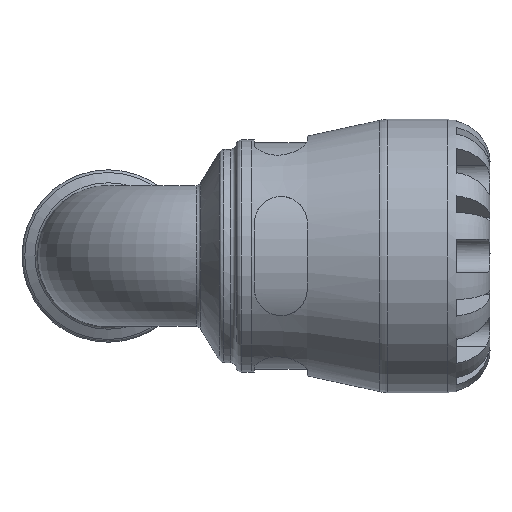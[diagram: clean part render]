
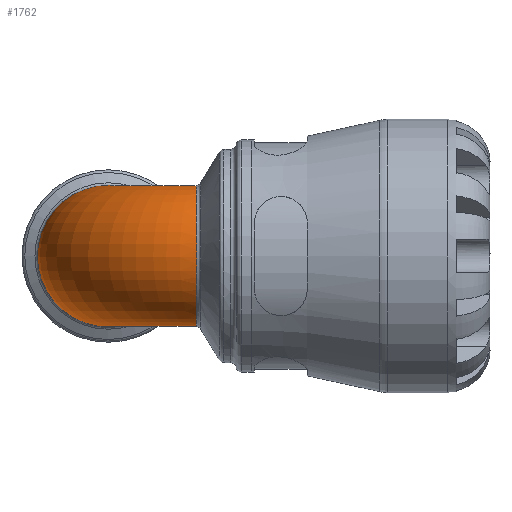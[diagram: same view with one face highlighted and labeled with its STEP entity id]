
A CAD part, front view. The second image highlights one B-rep face of the part: STEP entity #1762.
In plain terms, the highlighted toroidal (fillet/blend) face has major radius 23.875 mm and minor radius 14.962 mm.
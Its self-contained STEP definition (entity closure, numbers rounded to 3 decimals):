
#236=B_SPLINE_CURVE_WITH_KNOTS('',3,(#2670,#2671,#2672,#2673,#2674,#2675,
#2676,#2677,#2678,#2679,#2680,#2681,#2682,#2683,#2684,#2685,#2686),
 .UNSPECIFIED.,.T.,.F.,(4,1,1,1,1,1,1,1,1,1,1,1,1,1,4),(-3.142,
-2.693,-2.244,-1.795,-1.346,
-1.047,-0.449,-0.15,0.449,
0.898,1.346,1.795,2.244,2.693,
3.142),.UNSPECIFIED.);
#357=FACE_BOUND('',#512,.T.);
#389=FACE_OUTER_BOUND('',#511,.T.);
#511=EDGE_LOOP('',(#1167));
#512=EDGE_LOOP('',(#1168));
#634=CIRCLE('',#1873,14.962);
#731=VERTEX_POINT('',#2580);
#733=VERTEX_POINT('',#2668);
#894=EDGE_CURVE('',#731,#731,#634,.T.);
#896=EDGE_CURVE('',#733,#733,#236,.T.);
#1167=ORIENTED_EDGE('',*,*,#896,.F.);
#1168=ORIENTED_EDGE('',*,*,#894,.T.);
#1632=TOROIDAL_SURFACE('',#1887,23.875,14.962);
#1762=ADVANCED_FACE('',(#389,#357),#1632,.T.);
#1873=AXIS2_PLACEMENT_3D('',#2581,#2091,#2092);
#1887=AXIS2_PLACEMENT_3D('',#2923,#2120,#2121);
#2091=DIRECTION('center_axis',(0.,-1.,0.));
#2092=DIRECTION('ref_axis',(-1.,0.,0.));
#2120=DIRECTION('center_axis',(0.,0.,1.));
#2121=DIRECTION('ref_axis',(1.,0.,0.));
#2580=CARTESIAN_POINT('',(14.962,23.875,0.));
#2581=CARTESIAN_POINT('Origin',(0.,23.875,0.));
#2668=CARTESIAN_POINT('',(18.423,16.824,0.));
#2670=CARTESIAN_POINT('Ctrl Pts',(18.425,16.826,0.));
#2671=CARTESIAN_POINT('Ctrl Pts',(18.425,16.826,2.268));
#2672=CARTESIAN_POINT('Ctrl Pts',(18.421,15.435,6.806));
#2673=CARTESIAN_POINT('Ctrl Pts',(18.503,10.682,12.017));
#2674=CARTESIAN_POINT('Ctrl Pts',(18.599,4.327,15.028));
#2675=CARTESIAN_POINT('Ctrl Pts',(18.66,-1.911,15.123));
#2676=CARTESIAN_POINT('Ctrl Pts',(18.706,-8.417,12.744));
#2677=CARTESIAN_POINT('Ctrl Pts',(18.727,-12.821,8.173));
#2678=CARTESIAN_POINT('Ctrl Pts',(18.738,-15.151,0.835));
#2679=CARTESIAN_POINT('Ctrl Pts',(18.733,-14.061,-6.229));
#2680=CARTESIAN_POINT('Ctrl Pts',(18.709,-9.078,-12.243));
#2681=CARTESIAN_POINT('Ctrl Pts',(18.667,-2.698,-15.14));
#2682=CARTESIAN_POINT('Ctrl Pts',(18.599,4.33,-15.025));
#2683=CARTESIAN_POINT('Ctrl Pts',(18.503,10.682,-12.02));
#2684=CARTESIAN_POINT('Ctrl Pts',(18.421,15.435,-6.805));
#2685=CARTESIAN_POINT('Ctrl Pts',(18.425,16.827,-2.269));
#2686=CARTESIAN_POINT('Ctrl Pts',(18.425,16.826,0.));
#2923=CARTESIAN_POINT('Origin',(23.875,23.875,0.));
